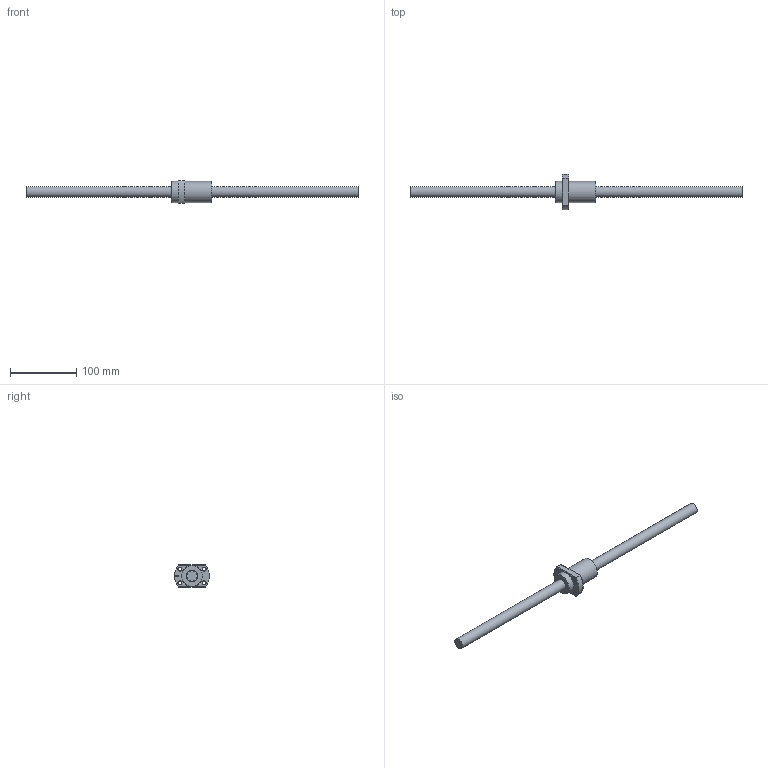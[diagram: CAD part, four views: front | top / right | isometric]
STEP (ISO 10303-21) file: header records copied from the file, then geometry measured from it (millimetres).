
FILE_DESCRIPTION (( 'STEP AP203' ), '1' );
FILE_NAME ('SFYA01616-5.6.step', '2024-05-22T07:51:26', ( '' ), ( '' ), 'SwSTEP 2.0', 'SolidWorks 2022', '' );
FILE_SCHEMA (( 'CONFIG_CONTROL_DESIGN' ));
Length unit declared in the file: millimetre
Products named in the file (1): SFYA01616-5.6
Bounding box: 500 x 53 x 34 mm (x, y, z)
Volume: 141858.8 mm3; surface area: 38979.4 mm2
Topology: 2 solids, 2 shells, 51 faces, 124 edges, 79 vertices
Faces by surface type: cylinder 18, plane 13, cone 9, torus 6, bspline 5
Full cylindrical faces by diameter (mm): 3 x1, 4.5 x4, 5 x6, 16 x1, 17.9 x1, 32 x2
Entity records: 3017 total; most frequent: CARTESIAN_POINT 2064, DIRECTION 170, ORIENTED_EDGE 156, EDGE_LOOP 80, EDGE_CURVE 78, AXIS2_PLACEMENT_3D 77, VERTEX_POINT 62, FACE_OUTER_BOUND 57
